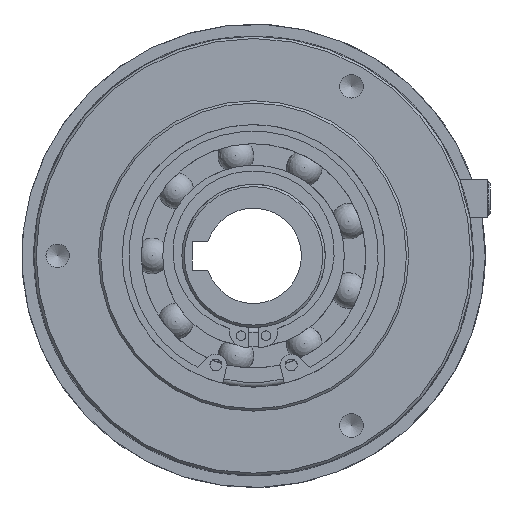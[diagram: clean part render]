
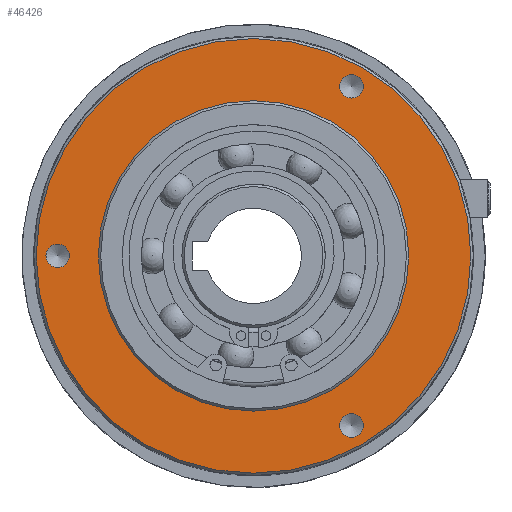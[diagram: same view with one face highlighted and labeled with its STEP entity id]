
A CAD part, left-side view. The second image highlights one B-rep face of the part: STEP entity #46426.
In plain terms, the highlighted planar face has unit normal (-1, 0, 0).
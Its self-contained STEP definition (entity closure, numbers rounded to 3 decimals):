
#3336=FACE_BOUND('',#13461,.T.);
#3337=FACE_BOUND('',#13462,.T.);
#3338=FACE_BOUND('',#13463,.T.);
#3339=FACE_BOUND('',#13464,.T.);
#8606=PLANE('',#52344);
#10929=FACE_OUTER_BOUND('',#13460,.T.);
#13460=EDGE_LOOP('',(#38153));
#13461=EDGE_LOOP('',(#38154));
#13462=EDGE_LOOP('',(#38155));
#13463=EDGE_LOOP('',(#38156));
#13464=EDGE_LOOP('',(#38157));
#15925=CIRCLE('',#52343,45.5);
#15926=CIRCLE('',#52345,2.459);
#15927=CIRCLE('',#52346,2.459);
#15928=CIRCLE('',#52347,2.459);
#15929=CIRCLE('',#52348,32.5);
#20478=VERTEX_POINT('',#89349);
#20479=VERTEX_POINT('',#89352);
#20480=VERTEX_POINT('',#89354);
#20481=VERTEX_POINT('',#89356);
#20482=VERTEX_POINT('',#89358);
#26665=EDGE_CURVE('',#20478,#20478,#15925,.T.);
#26666=EDGE_CURVE('',#20479,#20479,#15926,.T.);
#26667=EDGE_CURVE('',#20480,#20480,#15927,.T.);
#26668=EDGE_CURVE('',#20481,#20481,#15928,.T.);
#26669=EDGE_CURVE('',#20482,#20482,#15929,.T.);
#38153=ORIENTED_EDGE('',*,*,#26665,.F.);
#38154=ORIENTED_EDGE('',*,*,#26666,.T.);
#38155=ORIENTED_EDGE('',*,*,#26667,.T.);
#38156=ORIENTED_EDGE('',*,*,#26668,.T.);
#38157=ORIENTED_EDGE('',*,*,#26669,.T.);
#46426=ADVANCED_FACE('',(#10929,#3336,#3337,#3338,#3339),#8606,.T.);
#52343=AXIS2_PLACEMENT_3D('',#89350,#65415,#65416);
#52344=AXIS2_PLACEMENT_3D('',#89351,#65417,#65418);
#52345=AXIS2_PLACEMENT_3D('',#89353,#65419,#65420);
#52346=AXIS2_PLACEMENT_3D('',#89355,#65421,#65422);
#52347=AXIS2_PLACEMENT_3D('',#89357,#65423,#65424);
#52348=AXIS2_PLACEMENT_3D('',#89359,#65425,#65426);
#65415=DIRECTION('center_axis',(1.,0.,0.));
#65416=DIRECTION('ref_axis',(0.,1.,0.));
#65417=DIRECTION('center_axis',(-1.,0.,0.));
#65418=DIRECTION('ref_axis',(0.,0.,1.));
#65419=DIRECTION('center_axis',(1.,0.,0.));
#65420=DIRECTION('ref_axis',(0.,0.,1.));
#65421=DIRECTION('center_axis',(1.,0.,0.));
#65422=DIRECTION('ref_axis',(0.,0.,1.));
#65423=DIRECTION('center_axis',(1.,0.,0.));
#65424=DIRECTION('ref_axis',(0.,0.,1.));
#65425=DIRECTION('center_axis',(1.,0.,0.));
#65426=DIRECTION('ref_axis',(0.,1.,0.));
#89349=CARTESIAN_POINT('',(-25.,45.5,0.));
#89350=CARTESIAN_POINT('Origin',(-25.,0.,0.));
#89351=CARTESIAN_POINT('Origin',(-25.,39.,0.));
#89352=CARTESIAN_POINT('',(-25.,-20.5,37.966));
#89353=CARTESIAN_POINT('Origin',(-25.,-20.5,35.507));
#89354=CARTESIAN_POINT('',(-25.,-20.5,-33.049));
#89355=CARTESIAN_POINT('Origin',(-25.,-20.5,-35.507));
#89356=CARTESIAN_POINT('',(-25.,41.,2.459));
#89357=CARTESIAN_POINT('Origin',(-25.,41.,0.));
#89358=CARTESIAN_POINT('',(-25.,32.5,0.));
#89359=CARTESIAN_POINT('Origin',(-25.,0.,0.));
